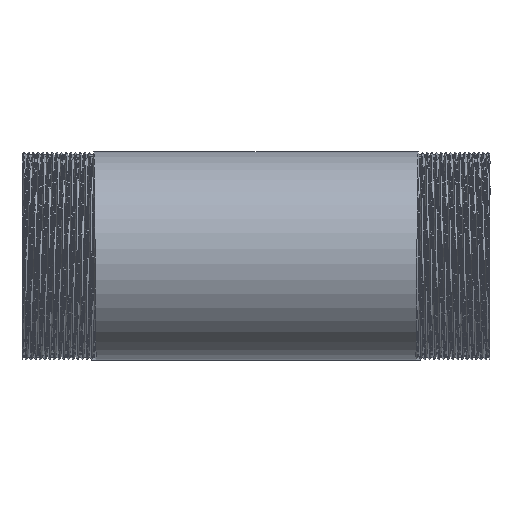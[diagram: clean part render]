
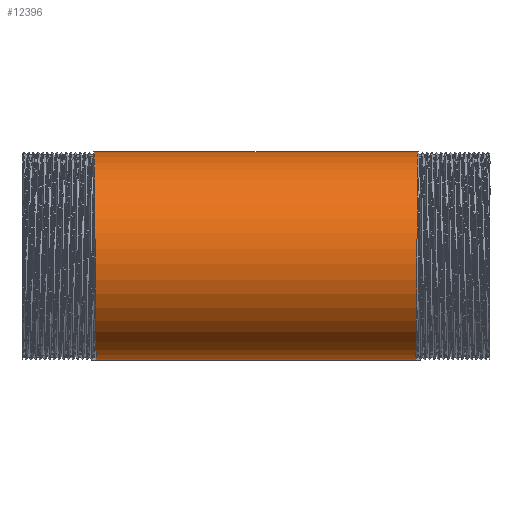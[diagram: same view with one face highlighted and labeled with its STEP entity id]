
A CAD part, front view. The second image highlights one B-rep face of the part: STEP entity #12396.
In plain terms, the highlighted cylindrical face has radius 44.45 mm (diameter 88.9 mm), a partial arc.
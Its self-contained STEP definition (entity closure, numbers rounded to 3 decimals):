
#464 = VERTEX_POINT ( 'NONE', #12419 ) ;
#754 = LINE ( 'NONE', #15832, #4282 ) ;
#974 = VERTEX_POINT ( 'NONE', #4129 ) ;
#1189 =( BOUNDED_CURVE ( )  B_SPLINE_CURVE ( 2, ( #7951, #5294, #11901, #9386, #15505, #7867, #10723, #14240, #14492, #4041, #13234 ),
 .UNSPECIFIED., .F., .F. ) 
 B_SPLINE_CURVE_WITH_KNOTS ( ( 3, 2, 2, 2, 2, 3 ),
 ( 0., 0.006, 0.011, 0.017, 0.022, 0.028 ),
 .UNSPECIFIED. ) 
 CURVE ( )  GEOMETRIC_REPRESENTATION_ITEM ( )  RATIONAL_B_SPLINE_CURVE ( ( 1., 0.951, 1., 0.951, 1., 0.951, 1., 0.951, 1., 0.951, 1. ) ) 
 REPRESENTATION_ITEM ( '' )  );
#1571 = DIRECTION ( 'NONE',  ( -1., 0., 0. ) ) ;
#1907 = VERTEX_POINT ( 'NONE', #7919 ) ;
#2328 = FACE_OUTER_BOUND ( 'NONE', #6496, .T. ) ;
#2518 = ORIENTED_EDGE ( 'NONE', *, *, #11000, .T. ) ;
#2755 = ORIENTED_EDGE ( 'NONE', *, *, #7209, .F. ) ;
#2926 = EDGE_CURVE ( 'NONE', #1907, #464, #754, .T. ) ;
#3507 = DIRECTION ( 'NONE',  ( 0., 0., 1. ) ) ;
#3550 =( BOUNDED_CURVE ( )  B_SPLINE_CURVE ( 2, ( #5885, #13417, #14757, #8384, #4392, #13493, #5965, #4715, #11067, #4473, #8471 ),
 .UNSPECIFIED., .F., .T. ) 
 B_SPLINE_CURVE_WITH_KNOTS ( ( 3, 2, 2, 2, 2, 3 ),
 ( 0., 0.006, 0.011, 0.017, 0.022, 0.028 ),
 .UNSPECIFIED. ) 
 CURVE ( )  GEOMETRIC_REPRESENTATION_ITEM ( )  RATIONAL_B_SPLINE_CURVE ( ( 1., 0.951, 1., 0.951, 1., 0.951, 1., 0.951, 1., 0.951, 1. ) ) 
 REPRESENTATION_ITEM ( '' )  );
#4041 = CARTESIAN_POINT ( 'NONE',  ( 69.15, -14.443, 44.45 ) ) ;
#4129 = CARTESIAN_POINT ( 'NONE',  ( -69.25, 0., 44.45 ) ) ;
#4282 = VECTOR ( 'NONE', #8202, 1000. ) ;
#4392 = CARTESIAN_POINT ( 'NONE',  ( -68.65, -42.274, -13.736 ) ) ;
#4473 = CARTESIAN_POINT ( 'NONE',  ( -69.15, -14.443, 44.45 ) ) ;
#4715 = CARTESIAN_POINT ( 'NONE',  ( -68.95, -37.811, 27.472 ) ) ;
#5005 = CARTESIAN_POINT ( 'NONE',  ( -149.494, 0., 0. ) ) ;
#5294 = CARTESIAN_POINT ( 'NONE',  ( 68.35, -14.443, -44.45 ) ) ;
#5885 = CARTESIAN_POINT ( 'NONE',  ( -68.25, 0., -44.45 ) ) ;
#5965 = CARTESIAN_POINT ( 'NONE',  ( -68.85, -42.274, 13.736 ) ) ;
#6016 = DIRECTION ( 'NONE',  ( -1., 0., 0. ) ) ;
#6496 = EDGE_LOOP ( 'NONE', ( #11876, #2518, #14172, #2755 ) ) ;
#6704 = EDGE_CURVE ( 'NONE', #9442, #974, #7921, .T. ) ;
#7209 = EDGE_CURVE ( 'NONE', #464, #974, #3550, .T. ) ;
#7867 = CARTESIAN_POINT ( 'NONE',  ( 68.75, -46.737, 0. ) ) ;
#7919 = CARTESIAN_POINT ( 'NONE',  ( 68.25, 0., -44.45 ) ) ;
#7921 = LINE ( 'NONE', #13041, #7927 ) ;
#7927 = VECTOR ( 'NONE', #1571, 1000. ) ;
#7951 = CARTESIAN_POINT ( 'NONE',  ( 68.25, 0., -44.45 ) ) ;
#8202 = DIRECTION ( 'NONE',  ( -1., 0., 0. ) ) ;
#8384 = CARTESIAN_POINT ( 'NONE',  ( -68.55, -37.811, -27.472 ) ) ;
#8471 = CARTESIAN_POINT ( 'NONE',  ( -69.25, 0., 44.45 ) ) ;
#9386 = CARTESIAN_POINT ( 'NONE',  ( 68.55, -37.811, -27.472 ) ) ;
#9442 = VERTEX_POINT ( 'NONE', #11773 ) ;
#10723 = CARTESIAN_POINT ( 'NONE',  ( 68.85, -42.274, 13.736 ) ) ;
#11000 = EDGE_CURVE ( 'NONE', #1907, #9442, #1189, .T. ) ;
#11067 = CARTESIAN_POINT ( 'NONE',  ( -69.05, -26.127, 35.961 ) ) ;
#11773 = CARTESIAN_POINT ( 'NONE',  ( 69.25, 0., 44.45 ) ) ;
#11876 = ORIENTED_EDGE ( 'NONE', *, *, #2926, .F. ) ;
#11901 = CARTESIAN_POINT ( 'NONE',  ( 68.45, -26.127, -35.961 ) ) ;
#12396 = ADVANCED_FACE ( 'NONE', ( #2328 ), #12620, .T. ) ;
#12419 = CARTESIAN_POINT ( 'NONE',  ( -68.25, 0., -44.45 ) ) ;
#12620 = CYLINDRICAL_SURFACE ( 'NONE', #13193, 44.45 ) ;
#13041 = CARTESIAN_POINT ( 'NONE',  ( -149.494, 0., 44.45 ) ) ;
#13193 = AXIS2_PLACEMENT_3D ( 'NONE', #5005, #6016, #3507 ) ;
#13234 = CARTESIAN_POINT ( 'NONE',  ( 69.25, 0., 44.45 ) ) ;
#13417 = CARTESIAN_POINT ( 'NONE',  ( -68.35, -14.443, -44.45 ) ) ;
#13493 = CARTESIAN_POINT ( 'NONE',  ( -68.75, -46.737, 0. ) ) ;
#14172 = ORIENTED_EDGE ( 'NONE', *, *, #6704, .T. ) ;
#14240 = CARTESIAN_POINT ( 'NONE',  ( 68.95, -37.811, 27.472 ) ) ;
#14492 = CARTESIAN_POINT ( 'NONE',  ( 69.05, -26.127, 35.961 ) ) ;
#14757 = CARTESIAN_POINT ( 'NONE',  ( -68.45, -26.127, -35.961 ) ) ;
#15505 = CARTESIAN_POINT ( 'NONE',  ( 68.65, -42.274, -13.736 ) ) ;
#15832 = CARTESIAN_POINT ( 'NONE',  ( -149.494, 0., -44.45 ) ) ;
